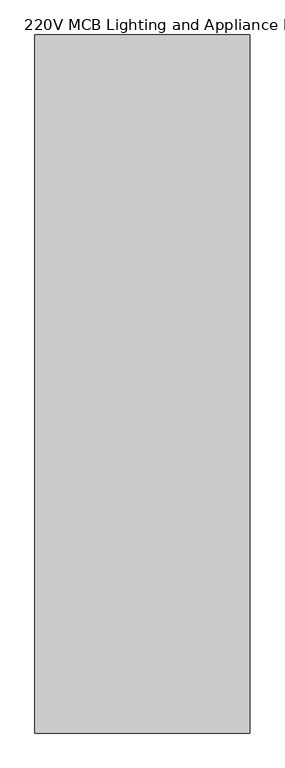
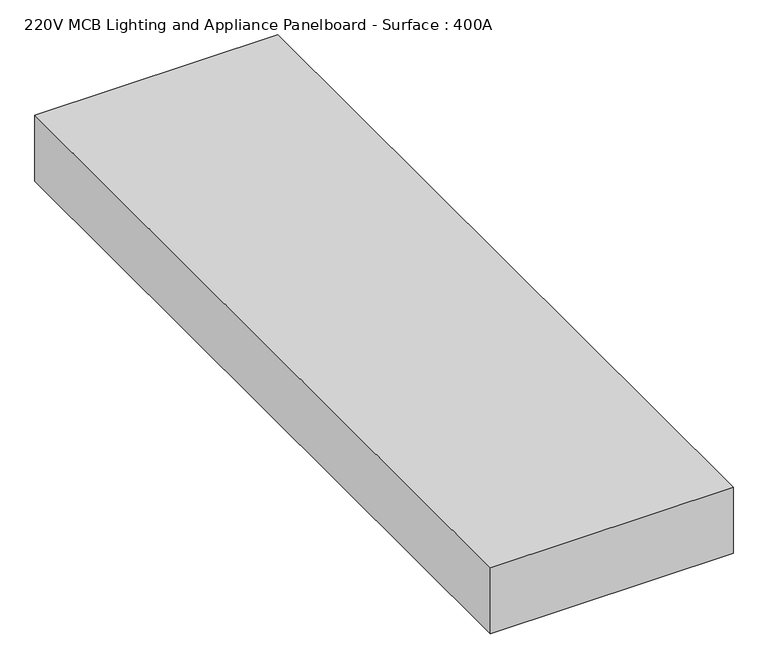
"""IFC4 building model written with IfcOpenShell, lengths in millimetres: proxy geometry, 220V MCB Lighting and Appliance Panelboard - Surface : 400A."""

from ifc_helpers import new_model, si_unit, origin, origin_with_axes, place, context, project, spatial, polyline, outline, extrude, source, transform, mapped, element, save


def proxy_220v_mcb_lighting_and_appliance_panelboard_surface_634b3572(model_context):
    return source(origin(), model_context, "Body", "SweptSolid", [
        extrude(outline(polyline([(349.2594706, 589.3943297), (349.2594706, -1061.6056703), (-158.7405294, -1061.6056703), (-158.7405294, 589.3943297), (349.2594706, 589.3943297)])), origin_with_axes(), (0.0, 0.0, 1.0), 146.05),
    ])


if __name__ == "__main__":
    model = new_model("IFC4")
    model_context = context("Model", 3, world=origin())
    ifc_project = project(units=[si_unit("LENGTHUNIT", "METRE", prefix="MILLI")], contexts=[model_context])
    site = spatial("IfcSite", under=ifc_project)
    building = spatial("IfcBuilding", under=site)
    placement = place(None, origin())
    proxy_220v_mcb_lighting_and_appliance_panelboard_surface_shape = proxy_220v_mcb_lighting_and_appliance_panelboard_surface_634b3572(model_context)
    element("IfcBuildingElementProxy", 1, Name="220V MCB Lighting and Appliance Panelboard - Surface : 400A", ObjectType="220V MCB Lighting and Appliance Panelboard - Surface : 400A", at=placement, inside=building, context=model_context, shape_type="MappedRepresentation", body=[
        mapped(proxy_220v_mcb_lighting_and_appliance_panelboard_surface_shape, transform((0.0, 0.0, 0.0), x_axis=(1.0, 0.0, 0.0), y_axis=(0.0, 1.0, 0.0), z_axis=(0.0, 0.0, 1.0))),
    ])
    save(model, "model.ifc")
